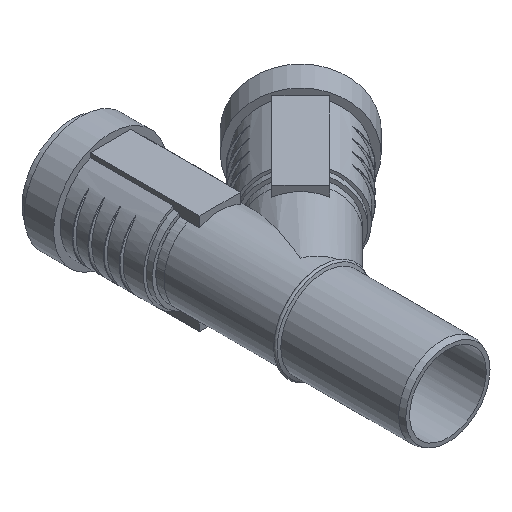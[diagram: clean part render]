
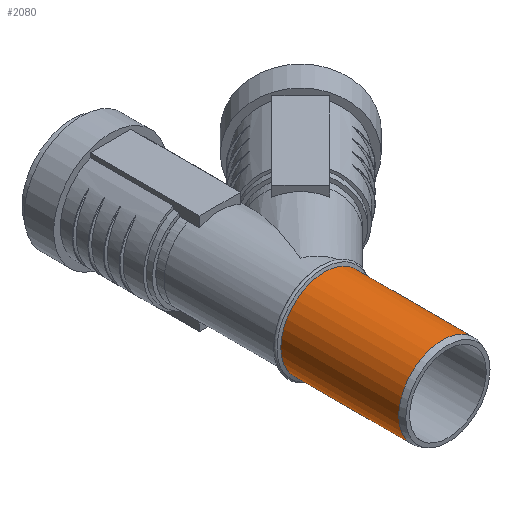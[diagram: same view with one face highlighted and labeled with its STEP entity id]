
A CAD part, isometric view. The second image highlights one B-rep face of the part: STEP entity #2080.
In plain terms, the highlighted cylindrical face has radius 16.075 mm (diameter 32.15 mm), a full revolution.
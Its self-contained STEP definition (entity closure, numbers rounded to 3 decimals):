
#373=CYLINDRICAL_SURFACE($,#2216,16.075);
#407=FACE_BOUND($,#593,.T.);
#475=FACE_OUTER_BOUND($,#592,.T.);
#592=EDGE_LOOP($,(#1377));
#593=EDGE_LOOP($,(#1378));
#774=CIRCLE($,#2214,16.075);
#776=CIRCLE($,#2217,16.075);
#875=VERTEX_POINT($,#3019);
#877=VERTEX_POINT($,#3024);
#1089=EDGE_CURVE($,#875,#875,#774,.T.);
#1091=EDGE_CURVE($,#877,#877,#776,.T.);
#1377=ORIENTED_EDGE($,*,*,#1091,.T.);
#1378=ORIENTED_EDGE($,*,*,#1089,.F.);
#2080=ADVANCED_FACE($,(#475,#407),#373,.T.);
#2214=AXIS2_PLACEMENT_3D($,#3020,#2460,#2461);
#2216=AXIS2_PLACEMENT_3D($,#3023,#2464,#2465);
#2217=AXIS2_PLACEMENT_3D($,#3025,#2466,#2467);
#2460=DIRECTION('center_axis',(0.,-1.,0.));
#2461=DIRECTION('ref_axis',(1.,0.,0.));
#2464=DIRECTION('center_axis',(0.,1.,0.));
#2465=DIRECTION('ref_axis',(1.,0.,0.));
#2466=DIRECTION('center_axis',(0.,-1.,0.));
#2467=DIRECTION('ref_axis',(1.,0.,0.));
#3019=CARTESIAN_POINT('',(-16.075,2.,0.));
#3020=CARTESIAN_POINT('Origin',(0.,2.,0.));
#3023=CARTESIAN_POINT('Origin',(0.,0.,0.));
#3024=CARTESIAN_POINT('',(-16.075,45.3,0.));
#3025=CARTESIAN_POINT('Origin',(0.,45.3,0.));
